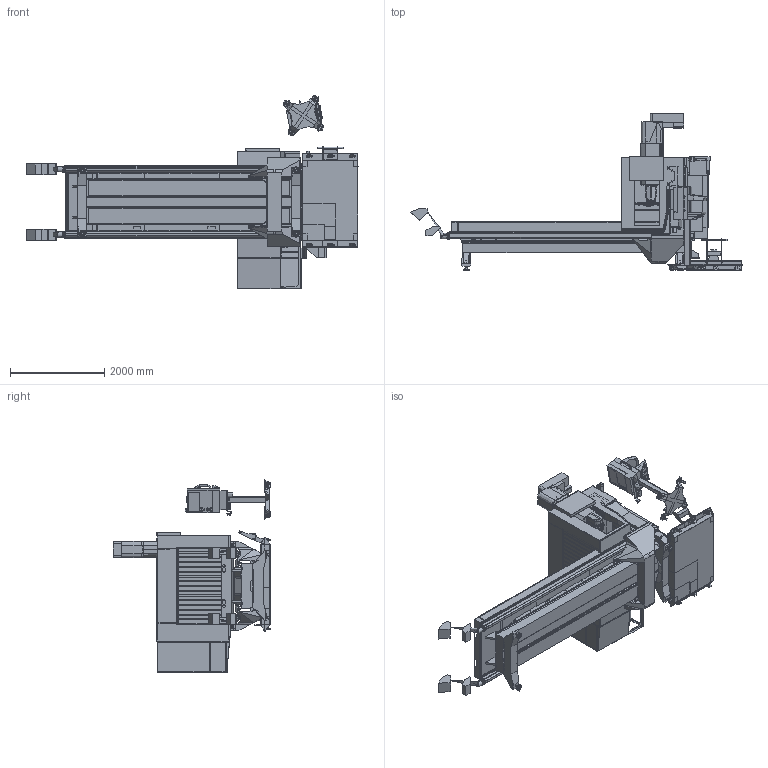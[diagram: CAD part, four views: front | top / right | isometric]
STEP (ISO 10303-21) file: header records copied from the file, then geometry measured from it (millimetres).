
FILE_DESCRIPTION (( 'STEP AP203' ), '1' );
FILE_NAME ('GM-1XT-5AX.STEP', '2026-06-18T16:06:24', ( '' ), ( '' ), 'SwSTEP 2.0', 'SolidWorks 2025', '' );
FILE_SCHEMA (( 'CONFIG_CONTROL_DESIGN' ));
Length unit declared in the file: inch
Products named in the file (18): Electrical Cabinets; Optional Tall Chip Chutes; GM-1XT-5AX; Standard Chip Auger; Curtains; Standard Table; Leveling pads; Base; Enclosure; Spindle Head; Y-axis Saddle; Anchor Pattern; Chip Guards; 30 Pocket Toolchanger; X-axis Bridge; Coolant Tank; Control Panel; Saddle
Assembly tree (17 placements, depth 2):
  GM-1XT-5AX
    Base
    30 Pocket Toolchanger
    Control Panel
    Coolant Tank
    Curtains
    Electrical Cabinets
    Optional Tall Chip Chutes
    Saddle
    Spindle Head
    Standard Chip Auger
    X-axis Bridge
    Y-axis Saddle
    Enclosure
    Standard Table
    Chip Guards
    Leveling pads
    Anchor Pattern
Bounding box: 7062.31 x 3343.54 x 4115.83 mm (x, y, z)
Topology: 147 solids, 160 shells, 13182 faces, 32506 edges, 19756 vertices
Faces by surface type: plane 7217, cylinder 3390, bspline 1108, torus 747, cone 551, sphere 169
Entity records: 442035 total; most frequent: CARTESIAN_POINT 136020, ORIENTED_EDGE 64628, DIRECTION 61712, EDGE_CURVE 32314, AXIS2_PLACEMENT_3D 20721, LINE 20270, VECTOR 20270, VERTEX_POINT 19756
